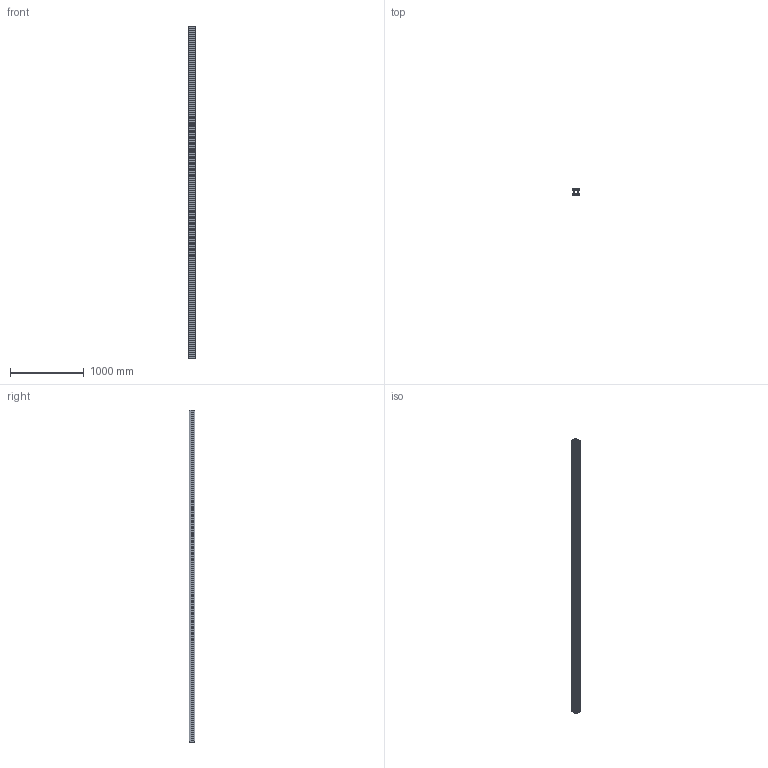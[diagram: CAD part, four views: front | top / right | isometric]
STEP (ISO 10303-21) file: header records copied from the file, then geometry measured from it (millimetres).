
FILE_DESCRIPTION (( 'STEP AP203' ), '1' );
FILE_NAME ('_-_MLF 4 4498 mm lang.step', '2005-09-01T12:47:11', ( ' ' ), ( ' ' ), 'SwSTEP 2.0', 'SolidWorks 2005187', '' );
FILE_SCHEMA (( 'CONFIG_CONTROL_DESIGN' ));
Length unit declared in the file: millimetre
Products named in the file (1): _-_MLF 4  4498 mm lang
Bounding box: 87.59 x 80 x 4498 mm (x, y, z)
Volume: 10364369.5 mm3; surface area: 5553719.9 mm2
Topology: 1 solids, 1 shells, 248 faces, 762 edges, 500 vertices
Faces by surface type: plane 174, cylinder 74
Entity records: 8575 total; most frequent: ORIENTED_EDGE 1524, CARTESIAN_POINT 1511, DIRECTION 1408, EDGE_CURVE 762, LINE 614, VECTOR 614, VERTEX_POINT 500, AXIS2_PLACEMENT_3D 397
